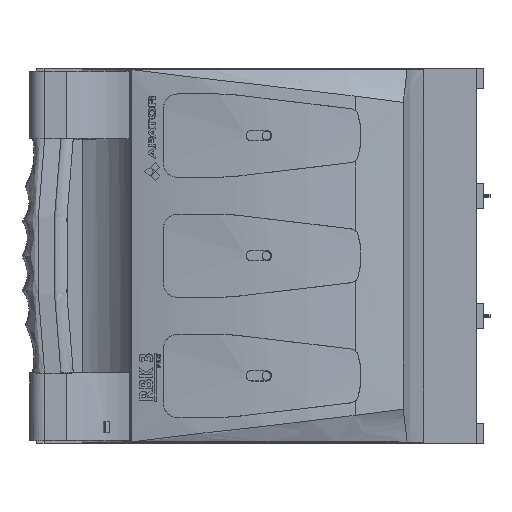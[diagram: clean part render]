
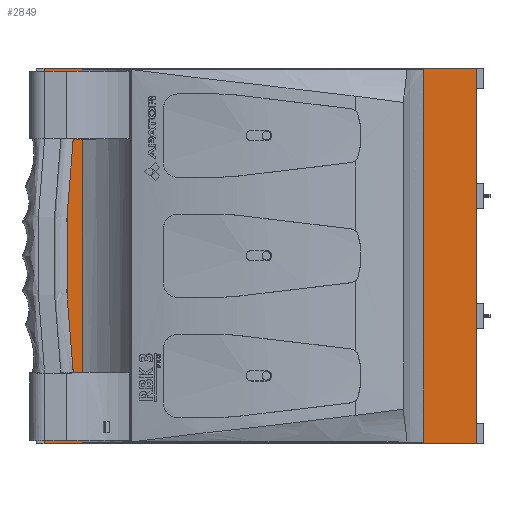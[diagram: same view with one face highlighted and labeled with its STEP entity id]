
A CAD part, top view. The second image highlights one B-rep face of the part: STEP entity #2849.
In plain terms, the highlighted planar face has unit normal (0, 0, 1).
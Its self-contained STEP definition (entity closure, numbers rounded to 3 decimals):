
#2849=ADVANCED_FACE('',(#6464,#6465),#4122,.F.);
#4122=PLANE('',#25302);
#6464=FACE_BOUND('',#6610,.T.);
#6465=FACE_BOUND('',#6611,.T.);
#6610=EDGE_LOOP('',(#8674,#8675,#8676,#8677));
#6611=EDGE_LOOP('',(#8678,#8679,#8680,#8681));
#8674=ORIENTED_EDGE('',*,*,#17551,.F.);
#8675=ORIENTED_EDGE('',*,*,#18280,.T.);
#8676=ORIENTED_EDGE('',*,*,#17639,.T.);
#8677=ORIENTED_EDGE('',*,*,#18281,.F.);
#8678=ORIENTED_EDGE('',*,*,#18282,.T.);
#8679=ORIENTED_EDGE('',*,*,#18283,.F.);
#8680=ORIENTED_EDGE('',*,*,#18284,.F.);
#8681=ORIENTED_EDGE('',*,*,#18285,.T.);
#15132=VERTEX_POINT('',#32189);
#15133=VERTEX_POINT('',#32191);
#15220=VERTEX_POINT('',#32403);
#15221=VERTEX_POINT('',#32405);
#15844=VERTEX_POINT('',#35557);
#15845=VERTEX_POINT('',#35558);
#15846=VERTEX_POINT('',#35560);
#15847=VERTEX_POINT('',#35562);
#17551=EDGE_CURVE('',#15132,#15133,#21159,.T.);
#17639=EDGE_CURVE('',#15221,#15220,#21194,.T.);
#18280=EDGE_CURVE('',#15132,#15221,#21319,.T.);
#18281=EDGE_CURVE('',#15133,#15220,#21320,.T.);
#18282=EDGE_CURVE('',#15844,#15845,#21321,.T.);
#18283=EDGE_CURVE('',#15846,#15845,#21322,.T.);
#18284=EDGE_CURVE('',#15847,#15846,#21323,.T.);
#18285=EDGE_CURVE('',#15847,#15844,#21324,.T.);
#21159=LINE('',#32190,#22844);
#21194=LINE('',#32404,#22879);
#21319=LINE('',#35554,#23008);
#21320=LINE('',#35555,#23009);
#21321=LINE('',#35556,#23010);
#21322=LINE('',#35559,#23011);
#21323=LINE('',#35561,#23012);
#21324=LINE('',#35563,#23013);
#22844=VECTOR('',#26742,1.);
#22879=VECTOR('',#26871,1.);
#23008=VECTOR('',#27132,1.);
#23009=VECTOR('',#27133,1.);
#23010=VECTOR('',#27134,1.);
#23011=VECTOR('',#27135,1.);
#23012=VECTOR('',#27136,1.);
#23013=VECTOR('',#27137,1.);
#25302=AXIS2_PLACEMENT_3D('',#35564,#27138,#27139);
#26742=DIRECTION('',(1.,0.,0.));
#26871=DIRECTION('',(1.,0.,0.));
#27132=DIRECTION('',(0.,-1.,0.));
#27133=DIRECTION('',(0.,-1.,0.));
#27134=DIRECTION('',(-1.,0.,0.));
#27135=DIRECTION('',(0.,-1.,0.));
#27136=DIRECTION('',(-1.,0.,0.));
#27137=DIRECTION('',(0.,-1.,0.));
#27138=DIRECTION('',(0.,0.,-1.));
#27139=DIRECTION('',(0.,1.,0.));
#32189=CARTESIAN_POINT('',(-155.5,125.,84.5));
#32190=CARTESIAN_POINT('',(-127.,125.,84.5));
#32191=CARTESIAN_POINT('',(132.5,125.,84.5));
#32403=CARTESIAN_POINT('',(132.5,-125.,84.5));
#32404=CARTESIAN_POINT('',(93.,-125.,84.5));
#32405=CARTESIAN_POINT('',(-155.5,-125.,84.5));
#35554=CARTESIAN_POINT('',(-155.5,120.5,84.5));
#35555=CARTESIAN_POINT('',(132.5,120.5,84.5));
#35556=CARTESIAN_POINT('',(-17.275,-124.,84.5));
#35557=CARTESIAN_POINT('',(97.261,-124.,84.5));
#35558=CARTESIAN_POINT('',(-129.969,-124.,84.5));
#35559=CARTESIAN_POINT('',(-129.969,120.5,84.5));
#35560=CARTESIAN_POINT('',(-129.969,124.,84.5));
#35561=CARTESIAN_POINT('',(93.,124.,84.5));
#35562=CARTESIAN_POINT('',(97.261,124.,84.5));
#35563=CARTESIAN_POINT('',(97.261,129.232,84.5));
#35564=CARTESIAN_POINT('',(93.,120.5,84.5));
